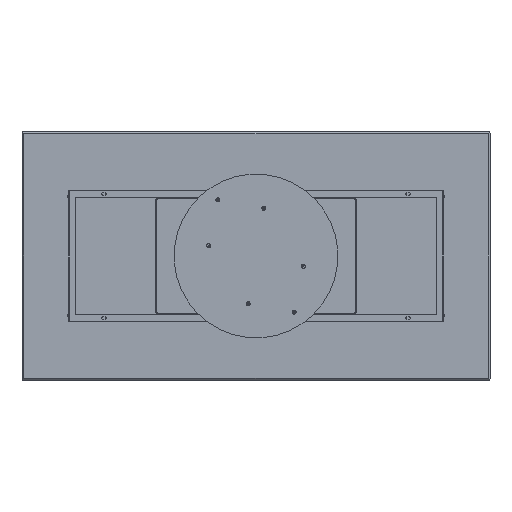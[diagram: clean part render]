
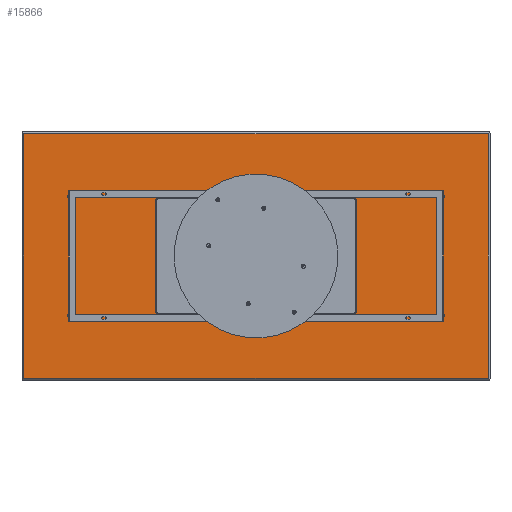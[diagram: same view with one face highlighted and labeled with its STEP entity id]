
A CAD part, front view. The second image highlights one B-rep face of the part: STEP entity #15866.
In plain terms, the highlighted planar face has unit normal (0, -1, 0).
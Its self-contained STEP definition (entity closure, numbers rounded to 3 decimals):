
#524 = CARTESIAN_POINT ( 'NONE',  ( 0., 0., 0. ) ) ;
#1139 = DIRECTION ( 'NONE',  ( 0., 0., -1. ) ) ;
#1412 = DIRECTION ( 'NONE',  ( -1., 0., 0. ) ) ;
#1829 = EDGE_LOOP ( 'NONE', ( #16878, #15853, #14539, #18251 ) ) ;
#1879 = LINE ( 'NONE', #18207, #13536 ) ;
#2177 = CARTESIAN_POINT ( 'NONE',  ( 0., 0., -522. ) ) ;
#3119 = VECTOR ( 'NONE', #1139, 1000. ) ;
#3512 = DIRECTION ( 'NONE',  ( 0., 0., 1. ) ) ;
#3533 = DIRECTION ( 'NONE',  ( 0., 1., 0. ) ) ;
#3553 = CARTESIAN_POINT ( 'NONE',  ( 992., 0., 522. ) ) ;
#3590 = EDGE_CURVE ( 'NONE', #13245, #15451, #1879, .T. ) ;
#4120 = EDGE_CURVE ( 'NONE', #6788, #13245, #15380, .T. ) ;
#4172 = LINE ( 'NONE', #13913, #3119 ) ;
#4969 = CARTESIAN_POINT ( 'NONE',  ( 992., 0., -522. ) ) ;
#6516 = EDGE_CURVE ( 'NONE', #15451, #18951, #19321, .T. ) ;
#6788 = VERTEX_POINT ( 'NONE', #20290 ) ;
#6850 = VECTOR ( 'NONE', #1412, 1000. ) ;
#8445 = VECTOR ( 'NONE', #8539, 1000. ) ;
#8539 = DIRECTION ( 'NONE',  ( 1., 0., 0. ) ) ;
#11174 = CARTESIAN_POINT ( 'NONE',  ( 0., 0., 522. ) ) ;
#13245 = VERTEX_POINT ( 'NONE', #4969 ) ;
#13290 = FACE_OUTER_BOUND ( 'NONE', #1829, .T. ) ;
#13536 = VECTOR ( 'NONE', #3512, 1000. ) ;
#13913 = CARTESIAN_POINT ( 'NONE',  ( -992., 0., 0. ) ) ;
#14215 = EDGE_CURVE ( 'NONE', #18951, #6788, #4172, .T. ) ;
#14539 = ORIENTED_EDGE ( 'NONE', *, *, #14215, .T. ) ;
#15009 = DIRECTION ( 'NONE',  ( 0., 0., 1. ) ) ;
#15380 = LINE ( 'NONE', #2177, #8445 ) ;
#15451 = VERTEX_POINT ( 'NONE', #3553 ) ;
#15853 = ORIENTED_EDGE ( 'NONE', *, *, #6516, .T. ) ;
#15866 = ADVANCED_FACE ( 'NONE', ( #13290 ), #18446, .F. ) ;
#16878 = ORIENTED_EDGE ( 'NONE', *, *, #3590, .T. ) ;
#18207 = CARTESIAN_POINT ( 'NONE',  ( 992., 0., 0. ) ) ;
#18251 = ORIENTED_EDGE ( 'NONE', *, *, #4120, .T. ) ;
#18446 = PLANE ( 'NONE',  #19948 ) ;
#18951 = VERTEX_POINT ( 'NONE', #20708 ) ;
#19321 = LINE ( 'NONE', #11174, #6850 ) ;
#19948 = AXIS2_PLACEMENT_3D ( 'NONE', #524, #3533, #15009 ) ;
#20290 = CARTESIAN_POINT ( 'NONE',  ( -992., 0., -522. ) ) ;
#20708 = CARTESIAN_POINT ( 'NONE',  ( -992., 0., 522. ) ) ;
